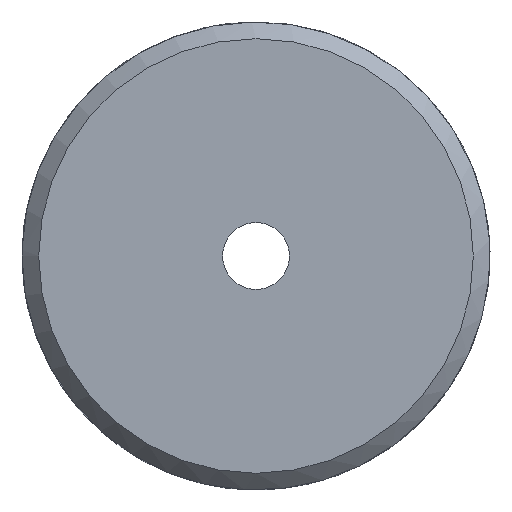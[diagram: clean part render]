
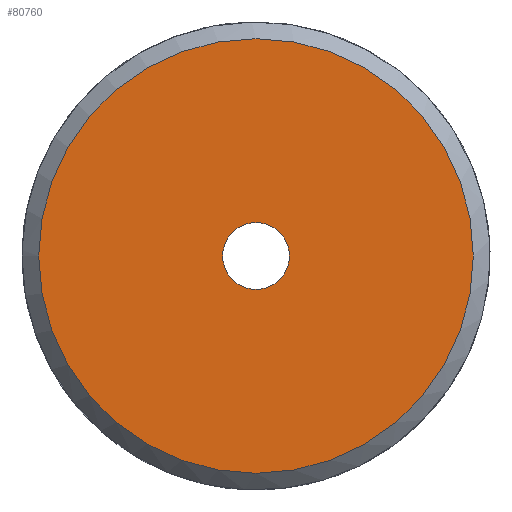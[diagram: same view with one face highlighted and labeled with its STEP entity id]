
A CAD part, left-side view. The second image highlights one B-rep face of the part: STEP entity #80760.
In plain terms, the highlighted planar face has unit normal (-1, 0, 0).
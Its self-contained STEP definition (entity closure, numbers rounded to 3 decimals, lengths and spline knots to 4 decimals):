
#22946=PLANE('',#79479);
#26099=ORIENTED_EDGE('',*,*,#32586,.F.);
#26100=ORIENTED_EDGE('',*,*,#32587,.F.);
#29911=CIRCLE('',#79478,6.5);
#29912=CIRCLE('',#79480,1.);
#30823=VERTEX_POINT('',#48259);
#30824=VERTEX_POINT('',#48262);
#32586=EDGE_CURVE('',#30823,#30823,#29911,.T.);
#32587=EDGE_CURVE('',#30824,#30824,#29912,.T.);
#34468=EDGE_LOOP('',(#26099));
#34469=EDGE_LOOP('',(#26100));
#35174=FACE_BOUND('',#34468,.T.);
#35175=FACE_BOUND('',#34469,.T.);
#36381=DIRECTION('',(1.,0.,0.));
#36382=DIRECTION('',(0.,0.,-6.5));
#36383=DIRECTION('',(-1.,0.,0.));
#36384=DIRECTION('',(0.,1.,0.));
#36385=DIRECTION('',(-1.,0.,0.));
#36386=DIRECTION('',(0.,-1.,0.));
#48259=CARTESIAN_POINT('',(44.5789,182.3972,-6.5));
#48260=CARTESIAN_POINT('',(44.5789,182.3972,0.));
#48261=CARTESIAN_POINT('',(44.5789,182.3972,0.));
#48262=CARTESIAN_POINT('',(44.5789,181.3972,0.));
#48263=CARTESIAN_POINT('',(44.5789,182.3972,0.));
#79478=AXIS2_PLACEMENT_3D('',#48260,#36381,#36382);
#79479=AXIS2_PLACEMENT_3D('',#48261,#36383,#36384);
#79480=AXIS2_PLACEMENT_3D('',#48263,#36385,#36386);
#80760=ADVANCED_FACE('',(#35174,#35175),#22946,.T.);
